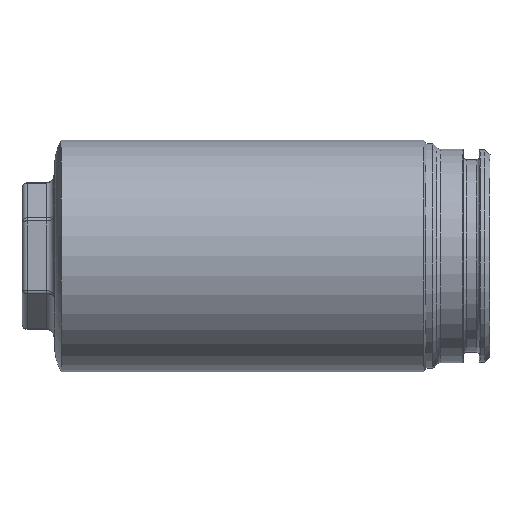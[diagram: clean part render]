
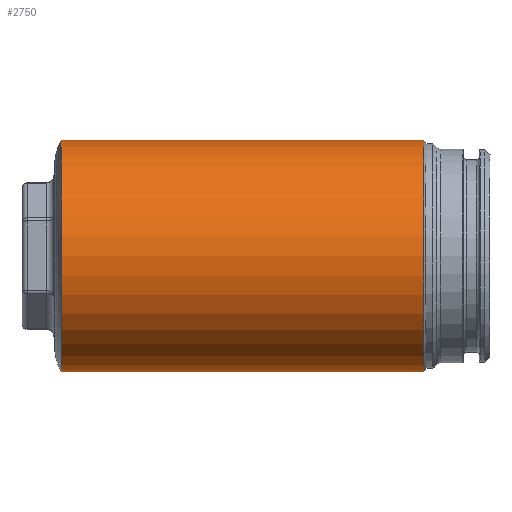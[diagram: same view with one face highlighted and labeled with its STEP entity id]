
A CAD part, top view. The second image highlights one B-rep face of the part: STEP entity #2750.
In plain terms, the highlighted cylindrical face has radius 32.5 mm (diameter 65 mm), a partial arc.
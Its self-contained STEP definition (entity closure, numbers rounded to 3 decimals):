
#562=CARTESIAN_POINT('',(100.651,-0.003,0.));
#563=DIRECTION('',(-1.,0.,0.));
#564=DIRECTION('',(0.,-1.,0.));
#565=AXIS2_PLACEMENT_3D('',#562,#563,#564);
#592=DIRECTION('',(1.,0.,0.));
#593=VECTOR('',#592,101.942);
#594=CARTESIAN_POINT('',(-1.29,32.5,
0.));
#595=LINE('',#594,#593);
#599=DIRECTION('',(1.,0.,0.));
#600=VECTOR('',#599,101.942);
#601=CARTESIAN_POINT('',(-1.292,-32.5,
0.));
#602=LINE('',#601,#600);
#622=CARTESIAN_POINT('',(-1.291,0.,
0.));
#623=DIRECTION('',(1.,0.,0.));
#624=DIRECTION('',(0.,1.,0.));
#625=AXIS2_PLACEMENT_3D('',#622,#623,#624);
#1838=CARTESIAN_POINT('',(100.65,-32.503,
0.));
#1839=VERTEX_POINT('',#1838);
#1840=CARTESIAN_POINT('',(100.652,32.497,
0.));
#1841=VERTEX_POINT('',#1840);
#1842=CARTESIAN_POINT('',(-1.292,-32.5,
0.));
#1843=VERTEX_POINT('',#1842);
#1844=CARTESIAN_POINT('',(-1.29,32.5,
0.));
#1845=VERTEX_POINT('',#1844);
#2736=CARTESIAN_POINT('',(49.68,-0.001,
0.));
#2737=DIRECTION('',(1.,0.,0.));
#2738=DIRECTION('',(0.,-1.,0.));
#2739=AXIS2_PLACEMENT_3D('',#2736,#2737,#2738);
#2740=CYLINDRICAL_SURFACE('',#2739,32.5);
#2742=ORIENTED_EDGE('',*,*,#2741,.F.);
#2744=ORIENTED_EDGE('',*,*,#2743,.T.);
#2745=ORIENTED_EDGE('',*,*,#2714,.F.);
#2747=ORIENTED_EDGE('',*,*,#2746,.F.);
#2748=EDGE_LOOP('',(#2742,#2744,#2745,#2747));
#2749=FACE_OUTER_BOUND('',#2748,.F.);
#566=CIRCLE('',#565,32.5);
#626=CIRCLE('',#625,32.5);
#2714=EDGE_CURVE('',#1839,#1841,#566,.T.);
#2741=EDGE_CURVE('',#1845,#1843,#626,.T.);
#2743=EDGE_CURVE('',#1845,#1841,#595,.T.);
#2746=EDGE_CURVE('',#1843,#1839,#602,.T.);
#2750=ADVANCED_FACE('',(#2749),#2740,.T.);
